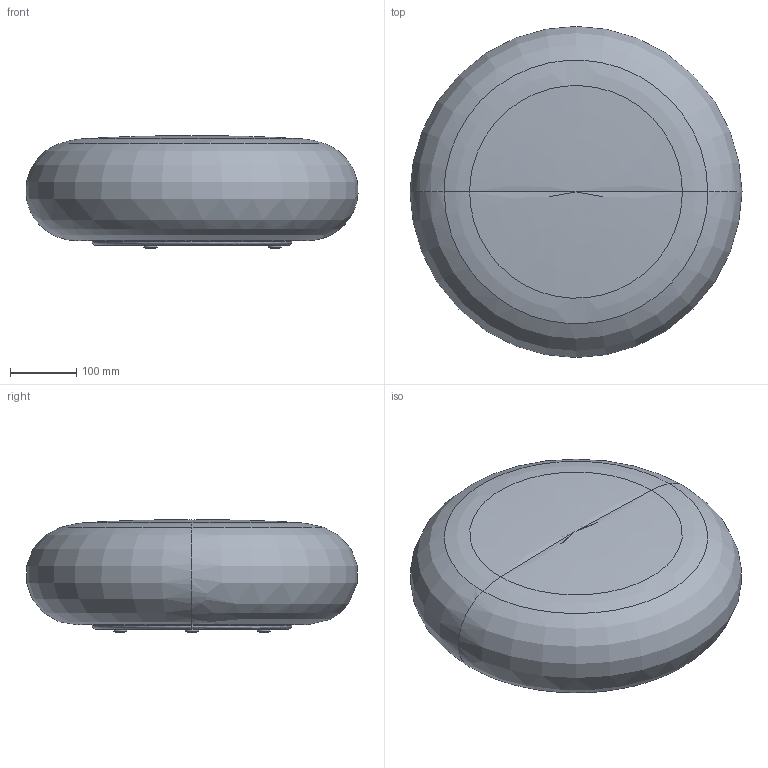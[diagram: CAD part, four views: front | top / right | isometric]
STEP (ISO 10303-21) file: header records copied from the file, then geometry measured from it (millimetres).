
FILE_DESCRIPTION(/* description */ (''),/* implementation_level */ '2;1');
FILE_NAME(/* name */ 'ITKA APPOGGIO 50',/* time_stamp */ '2012-11-05T12:18:41+01:00',/* author */ (''),/* organization */ (''),/* preprocessor_version */ 'ST-DEVELOPER v10',/* originating_system */ '',/* authorisation */ '');
FILE_SCHEMA (('CONFIG_CONTROL_DESIGN'));
Length unit declared in the file: millimetre
Products named in the file (1): 1
Bounding box: 499.69 x 498.12 x 169.9 mm (x, y, z)
Volume: 1480878.7 mm3; surface area: 1066290.4 mm2
Topology: 12 solids, 12 shells, 134 faces, 298 edges, 196 vertices
Faces by surface type: bspline 134
Entity records: 4570 total; most frequent: CARTESIAN_POINT 2851, ORIENTED_EDGE 588, EDGE_CURVE 294, VERTEX_POINT 196, EDGE_LOOP 156, ADVANCED_FACE 134, FACE_OUTER_BOUND 134, B_SPLINE_CURVE_WITH_KNOTS 50
